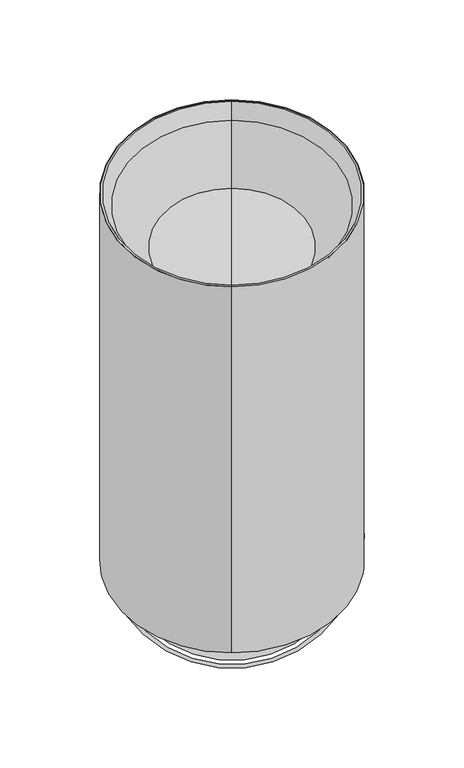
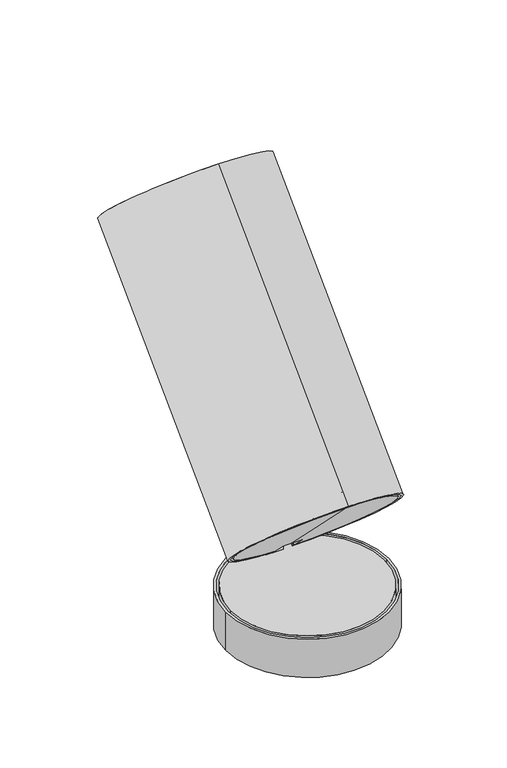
"""IFC4 building model written with IfcOpenShell, lengths in millimetres: light fixture geometry, PIPES C L : 2800 29W-830 62°."""

import ifcopenshell
import ifcopenshell.guid

model = None  # the IFC model being written
_history = None  # IfcOwnerHistory: only IFC2X3 demands one
_inside = {}  # id of a spatial element -> (the spatial element, [elements in it])
_under = {}  # id of a project, library or spatial element -> (it, [spatial elements below it])
_declared = {}  # id of a project -> (the project, [libraries it declares])
_typed = {}  # id of a type object -> (the type object, [elements of that type])
_made_of = {}  # id of a material, layer set ... -> (it, [elements and type objects made of it])


def new_model(schema):
    """Start an empty IFC model of exactly this schema.

    Asked for "IFC4X3", IfcOpenShell would pick the latest addendum, in which some entities
    have other attributes; the version numbers below select the first issue.
    IFC2X3 requires an IfcOwnerHistory on every rooted entity: one is made here for all.
    """
    global model, _history
    if schema == "IFC4X3":
        model = ifcopenshell.file(schema_version=(4, 3, 0, 0))
    else:
        model = ifcopenshell.file(schema=schema)
    _inside.clear()
    _under.clear()
    _declared.clear()
    _typed.clear()
    _made_of.clear()
    _history = None
    if model.schema == "IFC2X3":
        org = make("IfcOrganization", Name="unknown")
        user = make(
            "IfcPersonAndOrganization",
            ThePerson=make("IfcPerson", FamilyName="unknown"),
            TheOrganization=org,
        )
        app = make(
            "IfcApplication",
            ApplicationDeveloper=org,
            Version="unknown",
            ApplicationFullName="unknown",
            ApplicationIdentifier="unknown",
        )
        _history = make(
            "IfcOwnerHistory",
            OwningUser=user,
            OwningApplication=app,
            ChangeAction="ADDED",
            CreationDate=0,
        )
    return model


def make(cls, **values):
    """One entity of the class cls with the attributes given. An attribute that is None is left unset."""
    return model.create_entity(
        cls, **{name: value for name, value in values.items() if value is not None}
    )


def rooted(cls, **values):
    """An entity with a GlobalId (a new one), such as an element, a storey or a relation."""
    return make(cls, GlobalId=ifcopenshell.guid.new(), OwnerHistory=_history, **values)


def si_unit(unit_type, name, prefix=None):
    """IfcSIUnit, for example si_unit("LENGTHUNIT", "METRE", prefix="MILLI")."""
    return make("IfcSIUnit", UnitType=unit_type, Prefix=prefix, Name=name)


def assignment(units):
    """IfcUnitAssignment: the units of a project."""
    return None if units is None else make("IfcUnitAssignment", Units=units)


def point(xyz):
    """IfcCartesianPoint."""
    return None if xyz is None else make("IfcCartesianPoint", Coordinates=xyz)


def direction(xyz):
    """IfcDirection."""
    return None if xyz is None else make("IfcDirection", DirectionRatios=xyz)


def frame(location, z_axis=None, x_axis=None):
    """IfcAxis2Placement3D, a coordinate frame: its origin and axes. An axis left out is left unset."""
    return make(
        "IfcAxis2Placement3D",
        Location=point(location),
        Axis=direction(z_axis),
        RefDirection=direction(x_axis),
    )


def frame_2d(location, x_axis=None):
    """IfcAxis2Placement2D, a coordinate frame in the plane: its origin and x axis."""
    return make(
        "IfcAxis2Placement2D", Location=point(location), RefDirection=direction(x_axis)
    )


def origin():
    """The frame at (0, 0, 0) with its axes left unset."""
    return frame((0.0, 0.0, 0.0))


def origin_with_axes():
    """The frame at (0, 0, 0) with the z axis (0, 0, 1) and the x axis (1, 0, 0) written out."""
    return frame((0.0, 0.0, 0.0), z_axis=(0.0, 0.0, 1.0), x_axis=(1.0, 0.0, 0.0))


def origin_2d():
    """The frame at (0, 0) in the plane with its x axis left unset."""
    return frame_2d((0.0, 0.0))


def place(relative_to, where):
    """IfcLocalPlacement: puts the frame where relative to a parent placement (None: the world)."""
    return make(
        "IfcLocalPlacement", PlacementRelTo=relative_to, RelativePlacement=where
    )


def context(
    kind, dimensions, precision=None, world=None, true_north=None, identifier=None
):
    """IfcGeometricRepresentationContext, for example the 3D "Model" context."""
    return make(
        "IfcGeometricRepresentationContext",
        ContextIdentifier=identifier,
        ContextType=kind,
        CoordinateSpaceDimension=dimensions,
        Precision=precision,
        WorldCoordinateSystem=world,
        TrueNorth=true_north,
    )


def project(units=None, contexts=None):
    """IfcProject with its units and contexts."""
    return rooted(
        "IfcProject",
        Name="project",
        RepresentationContexts=contexts,
        UnitsInContext=assignment(units),
    )


def spatial(cls, under=None, at=None, **own):
    """A site, building, storey or space (cls), placed at a placement, below another one or the project."""
    s = rooted(cls, ObjectPlacement=at, **own)
    if under is not None:
        _under.setdefault(under.id(), (under, []))[1].append(s)
    return s


def polyline(points):
    """IfcPolyline through the points."""
    return make("IfcPolyline", Points=[point(p) for p in points])


def circle_curve(where, radius):
    """IfcCircle in the frame where."""
    return make("IfcCircle", Position=where, Radius=radius)


def trimmed(basis, trim1, trim2, sense, master):
    """IfcTrimmedCurve: the piece of a basis curve between two trims."""
    return make(
        "IfcTrimmedCurve",
        BasisCurve=basis,
        Trim1=trim1,
        Trim2=trim2,
        SenseAgreement=sense,
        MasterRepresentation=master,
    )


def segment(curve, same_sense, transition):
    """IfcCompositeCurveSegment."""
    return make(
        "IfcCompositeCurveSegment",
        Transition=transition,
        SameSense=same_sense,
        ParentCurve=curve,
    )


def composite_curve(segments, self_intersect=None):
    """IfcCompositeCurve: segments joined end to end."""
    return make("IfcCompositeCurve", Segments=segments, SelfIntersect=self_intersect)


def outline(outer, holes=None, kind="AREA"):
    """IfcArbitraryClosedProfileDef: a profile drawn as a closed curve; with holes, ...WithVoids."""
    if holes is None:
        return make("IfcArbitraryClosedProfileDef", ProfileType=kind, OuterCurve=outer)
    return make(
        "IfcArbitraryProfileDefWithVoids",
        ProfileType=kind,
        OuterCurve=outer,
        InnerCurves=holes,
    )


def extrude(swept, where, along, depth):
    """IfcExtrudedAreaSolid: the profile swept, set in the frame where, extruded along a direction by depth."""
    return make(
        "IfcExtrudedAreaSolid",
        SweptArea=swept,
        Position=where,
        ExtrudedDirection=direction(along),
        Depth=depth,
    )


def shape(context_of_items, identifier, shape_type, items):
    """IfcShapeRepresentation: the items that make up one representation, for example the "Body"."""
    return make(
        "IfcShapeRepresentation",
        ContextOfItems=context_of_items,
        RepresentationIdentifier=identifier,
        RepresentationType=shape_type,
        Items=items,
    )


def source(mapping_origin, context_of_items, identifier, shape_type, items):
    """IfcRepresentationMap: a shape defined once, which mapped items show again and again."""
    return make(
        "IfcRepresentationMap",
        MappingOrigin=mapping_origin,
        MappedRepresentation=shape(context_of_items, identifier, shape_type, items),
    )


def transform(
    local_origin,
    x_axis=None,
    y_axis=None,
    z_axis=None,
    scale=None,
    scale2=None,
    scale3=None,
    uniform=True,
):
    """IfcCartesianTransformationOperator3D, or its non-uniform kind. x_axis, y_axis, z_axis: its Axis1, 2, 3."""
    if uniform:
        return make(
            "IfcCartesianTransformationOperator3D",
            Axis1=direction(x_axis),
            Axis2=direction(y_axis),
            LocalOrigin=point(local_origin),
            Scale=scale,
            Axis3=direction(z_axis),
        )
    return make(
        "IfcCartesianTransformationOperator3DnonUniform",
        Axis1=direction(x_axis),
        Axis2=direction(y_axis),
        LocalOrigin=point(local_origin),
        Scale=scale,
        Axis3=direction(z_axis),
        Scale2=scale2,
        Scale3=scale3,
    )


def mapped(mapping_source, mapping_target):
    """IfcMappedItem: shows the shape of a source again, moved by a transform."""
    return make(
        "IfcMappedItem", MappingSource=mapping_source, MappingTarget=mapping_target
    )


def made_of(thing, what):
    """Note that an element or type object is made of a material, layer set ...; save() writes the relation."""
    if what is not None:
        _made_of.setdefault(what.id(), (what, []))[1].append(thing)
    return thing


def element(
    cls,
    number,
    at=None,
    inside=None,
    cuts=None,
    type_object=None,
    material=None,
    context=None,
    identifier="Body",
    shape_type=None,
    held_by="IfcProductDefinitionShape",
    body=None,
    shapes=None,
    **own,
):
    """One element of the class cls, such as IfcWall. Its Tag is "e" and its number.

    at: its placement. inside: the storey or other place that contains it. cuts: it is an
    opening in that element (IfcRelVoidsElement). A single representation is given by context,
    identifier, shape_type and body (its items); several are given by shapes. held_by: the class
    of the entity that holds the representations. save() writes the other relations.
    """
    e = rooted(cls, Tag="e%d" % number, ObjectPlacement=at, **own)
    if body is not None:
        shapes = [shape(context, identifier, shape_type, body)]
    if shapes is not None:
        e.Representation = make(held_by, Representations=shapes)
    if inside is not None:
        _inside.setdefault(inside.id(), (inside, []))[1].append(e)
    if cuts is not None:
        rooted(
            "IfcRelVoidsElement", RelatingBuildingElement=cuts, RelatedOpeningElement=e
        )
    if type_object is not None:
        _typed.setdefault(type_object.id(), (type_object, []))[1].append(e)
    return made_of(e, material)


def aggregate(whole, parts):
    """IfcRelAggregates: a whole, such as a stair, and the parts it consists of."""
    return rooted("IfcRelAggregates", RelatingObject=whole, RelatedObjects=parts)


def save(model, path):
    """Write the relations noted so far, then the file.

    IfcRelAggregates (storeys below a building ...), IfcRelContainedInSpatialStructure (elements
    in a storey), IfcRelDefinesByType, IfcRelAssociatesMaterial and IfcRelDeclares: one each for
    every whole, place, type object, material and project.
    """
    for whole, parts in _under.values():
        aggregate(whole, parts)
    for where, things in _inside.values():
        rooted(
            "IfcRelContainedInSpatialStructure",
            RelatedElements=things,
            RelatingStructure=where,
        )
    for kind, things in _typed.values():
        rooted("IfcRelDefinesByType", RelatedObjects=things, RelatingType=kind)
    for what, things in _made_of.values():
        rooted("IfcRelAssociatesMaterial", RelatedObjects=things, RelatingMaterial=what)
    for by, libraries in _declared.values():
        rooted("IfcRelDeclares", RelatingContext=by, RelatedDefinitions=libraries)
    model.write(path)


def plane_surface(at):
    """IfcPlane: the flat surface through the origin of the frame at, square to its z axis."""
    return make("IfcPlane", Position=at)


def cylinder_surface(at, radius):
    """IfcCylindricalSurface: all points at the distance radius from the z axis of the frame at."""
    return make("IfcCylindricalSurface", Position=at, Radius=radius)


def revolved_surface(curve, axis_point, axis_direction):
    """IfcSurfaceOfRevolution: the curve turned about the line through axis_point along axis_direction."""
    return make(
        "IfcSurfaceOfRevolution",
        SweptCurve=make("IfcArbitraryOpenProfileDef", ProfileType="CURVE", Curve=curve),
        AxisPosition=make("IfcAxis1Placement", Location=point(axis_point), Axis=direction(axis_direction)),
    )


def advanced_brep(points, edges, surfaces, faces):
    """IfcAdvancedBrep: a solid bounded by faces that lie on surfaces and meet in shared edges.

    An edge is (start, end): straight between two places in points (the first is 0);
    or (start, end, curve); or (start, end, curve, False) where it runs against its curve.
    A face is (place in surfaces, loops), or (place, loops, False) where it looks against
    its surface's normal. A loop lists edges by number (the first is 1), with a minus sign
    where the edge is run from its end to its start. The first loop is the outer one.
    """
    corners = [point(p) for p in points]
    vertices = [make("IfcVertexPoint", VertexGeometry=c) for c in corners]
    made = []
    for start, end, *more in edges:
        made.append(
            make(
                "IfcEdgeCurve",
                EdgeStart=vertices[start],
                EdgeEnd=vertices[end],
                EdgeGeometry=more[0] if more else make("IfcPolyline", Points=[corners[start], corners[end]]),
                SameSense=more[1] if len(more) > 1 else True,
            )
        )
    hull = []
    for where, loops, *sense in faces:
        bounds = []
        for j, loop in enumerate(loops):
            ring = [make("IfcOrientedEdge", EdgeElement=made[abs(k) - 1], Orientation=k > 0) for k in loop]
            bounds.append(
                make(
                    "IfcFaceOuterBound" if j == 0 else "IfcFaceBound",
                    Bound=make("IfcEdgeLoop", EdgeList=ring),
                    Orientation=True,
                )
            )
        hull.append(make("IfcAdvancedFace", Bounds=bounds, FaceSurface=surfaces[where], SameSense=sense[0] if sense else True))
    return make("IfcAdvancedBrep", Outer=make("IfcClosedShell", CfsFaces=hull))


def light_fixture_090edace(model_context):
    return source(origin(), model_context, "Body", "SolidModel", [
        advanced_brep(
        [(-8.0, 57.2071068, 92.8492424), (-8.0, 28.9228355, 64.5649712), (-8.0, 41.2985853, 52.1892214), (-8.0, 33.5204107, 44.4110468), (-8.0, 34.9452946, 42.9861629), (-8.0, 71.0077404, 79.0486088), (8.0, 57.2071068, 92.8492424), (8.0, 71.0077404, 79.0486088), (8.0, 34.9452946, 42.9861629), (8.0, 33.5204107, 44.4110468), (8.0, 41.2985853, 52.1892214), (8.0, 28.9228355, 64.5649712), (0.0, 28.9228355, 64.5649712), (0.0, 71.3492424, 78.7071068), (0.0, 125.0893578, 320.5376259), (0.0, 219.1345597, 226.492424), (0.0, 208.9399527, 223.5599433), (0.0, 122.156877, 310.343019), (0.0, -58.7584053, 136.6898628), (0.0, -57.3441918, 135.2756493), (0.0, -49.5660172, 143.0538239), (0.0, -3.9576298, 97.4454365), (0.0, 114.3056476, 275.7154061), (0.0, 174.3123398, 215.7087138), (0.0, 144.3089937, 245.71206)],
        [
            (0, 1),
            (1, 2),
            (2, 3),
            (3, 4),
            (4, 5),
            (5, 0),
            (6, 7),
            (7, 8),
            (8, 9),
            (9, 10),
            (10, 11),
            (11, 6),
            (0, 6),
            (11, 12),
            (12, 1),
            (5, 13, circle_curve(frame((0.0, 24.3266415, 125.7297077), z_axis=(0.0, -0.7071067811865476, -0.7071067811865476), x_axis=(0.0, 0.7071067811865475, -0.7071067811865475)), 66.5)),
            (13, 7, circle_curve(frame((0.0, 24.3266415, 125.7297077), z_axis=(0.0, -0.7071067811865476, -0.7071067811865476), x_axis=(0.0, 0.7071067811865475, -0.7071067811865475)), 66.5)),
            (14, 15, circle_curve(frame((0.0, 172.1119587, 273.515025), z_axis=(0.0, 0.7071067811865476, 0.7071067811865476), x_axis=(0.0, 0.7071067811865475, -0.7071067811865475)), 66.5)),
            (15, 16),
            (16, 17, circle_curve(frame((0.0, 165.5484149, 266.9514811), z_axis=(0.0, -0.7071067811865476, -0.7071067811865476), x_axis=(0.0, 0.7071067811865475, -0.7071067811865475)), 61.3649013)),
            (17, 14),
            (15, 14, circle_curve(frame((0.0, 172.1119587, 273.515025), z_axis=(0.0, 0.7071067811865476, 0.7071067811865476), x_axis=(0.0, 0.7071067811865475, -0.7071067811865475)), 66.5)),
            (17, 16, circle_curve(frame((0.0, 165.5484149, 266.9514811), z_axis=(0.0, -0.7071067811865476, -0.7071067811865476), x_axis=(0.0, 0.7071067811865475, -0.7071067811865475)), 61.3649013)),
            (14, 18),
            (18, 8, circle_curve(frame((0.0, -11.7358044, 89.6672619), z_axis=(0.0, 0.7071067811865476, 0.7071067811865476), x_axis=(0.0, 0.7071067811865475, -0.7071067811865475)), 66.5)),
            (13, 15),
            (4, 18, circle_curve(frame((0.0, -11.7358044, 89.6672619), z_axis=(0.0, 0.7071067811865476, 0.7071067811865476), x_axis=(0.0, 0.7071067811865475, -0.7071067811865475)), 66.5)),
            (18, 19),
            (19, 9, circle_curve(frame((0.0, -11.7358044, 89.6672619), z_axis=(0.0, 0.7071067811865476, 0.7071067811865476), x_axis=(0.0, 0.7071067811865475, -0.7071067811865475)), 64.5)),
            (3, 19, circle_curve(frame((0.0, -11.7358044, 89.6672619), z_axis=(0.0, 0.7071067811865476, 0.7071067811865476), x_axis=(0.0, 0.7071067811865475, -0.7071067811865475)), 64.5)),
            (19, 20),
            (20, 10, circle_curve(frame((0.0, -3.9576298, 97.4454365), z_axis=(0.0, 0.7071067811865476, 0.7071067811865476), x_axis=(0.0, 0.7071067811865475, -0.7071067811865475)), 64.5)),
            (2, 20, circle_curve(frame((0.0, -3.9576298, 97.4454365), z_axis=(0.0, 0.7071067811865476, 0.7071067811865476), x_axis=(0.0, 0.7071067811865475, -0.7071067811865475)), 64.5)),
            (20, 21),
            (21, 12),
            (22, 23, circle_curve(frame((0.0, 144.3089937, 245.71206), z_axis=(0.0, 0.7071067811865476, 0.7071067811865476), x_axis=(0.0, 0.7071067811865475, -0.7071067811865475)), 42.431139)),
            (23, 24),
            (24, 22),
            (23, 22, circle_curve(frame((0.0, 144.3089937, 245.71206), z_axis=(0.0, 0.7071067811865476, 0.7071067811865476), x_axis=(0.0, 0.7071067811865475, -0.7071067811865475)), 42.431139)),
            (16, 23),
            (22, 17),
        ],
        [
            plane_surface(frame((-8.0, 57.2071068, 92.8492424), z_axis=(1.0000000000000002, 0.0, 0.0), x_axis=(0.0, 0.707106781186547, 0.7071067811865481))),
            plane_surface(frame((8.0, 57.2071068, 92.8492424), z_axis=(-1.0000000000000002, 0.0, 0.0), x_axis=(0.0, -0.707106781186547, -0.7071067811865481))),
            plane_surface(frame((8.0, 57.2071068, 92.8492424), z_axis=(0.0, 0.7071067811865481, -0.707106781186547), x_axis=(-1.0, 0.0, 0.0))),
            plane_surface(frame((8.0, 74.8847763, 75.1715729), z_axis=(0.0, -0.7071067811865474, -0.7071067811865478), x_axis=(-1.0, 0.0, 0.0))),
            revolved_surface(polyline([(0.0, 208.9399527, 223.5599433), (0.0, 219.1345597, 226.492424)]), (0.0, -15.5912199, 85.8118463), (0.0, -0.7071067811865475, -0.7071067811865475)),
            cylinder_surface(frame((0.0, -15.5912199, 85.8118463), z_axis=(0.0, -0.7071067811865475, -0.7071067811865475), x_axis=(0.0, 0.7071067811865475, -0.7071067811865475)), 66.5),
            plane_surface(frame((0.0, -11.7358044, 89.6672619), z_axis=(0.0, -0.7071067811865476, -0.7071067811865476), x_axis=(0.0, 0.7071067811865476, -0.7071067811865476))),
            revolved_surface(polyline([(0.0, 33.87258303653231, 44.05887446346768), (0.0, 41.65075763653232, 51.83704906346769)]), (0.0, -15.5912199, 85.8118463), (0.0, -0.7071067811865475, -0.7071067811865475)),
            plane_surface(frame((0.0, -3.9576298, 97.4454365), z_axis=(0.0, -0.7071067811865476, -0.7071067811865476), x_axis=(0.0, 0.7071067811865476, -0.7071067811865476))),
            plane_surface(frame((0.0, 144.3089937, 245.71206), z_axis=(0.0, 0.7071067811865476, 0.7071067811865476), x_axis=(0.0, 0.7071067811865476, -0.7071067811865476))),
            revolved_surface(polyline([(0.0, 174.3123398, 215.7087138), (0.0, 208.9399527, 223.5599433)]), (0.0, -15.5912199, 85.8118463), (0.0, -0.7071067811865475, -0.7071067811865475)),
        ],
        [
            (0, [[1, 2, 3, 4, 5, 6]]),
            (1, [[7, 8, 9, 10, 11, 12]]),
            (2, [[13, -12, 14, 15, -1]]),
            (3, [[-13, -6, 16, 17, -7]]),
            (4, [[18, 19, 20, 21]]),
            (4, [[-19, 22, -21, 23]]),
            (5, [[-18, 24, 25, -8, -17, 26]]),
            (5, [[-22, -26, -16, -5, 27, -24]]),
            (6, [[28, 29, -9, -25]]),
            (6, [[-28, -27, -4, 30]]),
            (7, [[31, 32, -10, -29]]),
            (7, [[-31, -30, -3, 33]]),
            (8, [[34, 35, -14, -11, -32]]),
            (8, [[-34, -33, -2, -15, -35]]),
            (9, [[36, 37, 38]]),
            (9, [[-37, 39, -38]]),
            (10, [[-20, 40, -36, 41]]),
            (10, [[-23, -41, -39, -40]]),
        ],
    ),
        advanced_brep(
        [(-8.0, 22.5588745, 58.2010101), (-8.0, 21.1446609, 56.7867966), (-8.0, 32.0903035, 45.841154), (-8.0, 33.5045171, 47.2553676), (8.0, 21.1446609, 56.7867966), (8.0, 22.5588745, 58.2010101), (8.0, 33.5045171, 47.2553676), (8.0, 32.0903035, 45.841154), (0.0, 22.5588745, 58.2010101), (0.0, 21.1446609, 56.7867966), (0.0, -10.3215908, 91.0814755), (0.0, -54.5112698, 135.2711545), (0.0, -55.9254834, 133.8569409), (0.0, -11.7358044, 89.6672619)],
        [
            (0, 1),
            (1, 2),
            (2, 3),
            (3, 0),
            (4, 5),
            (5, 6),
            (6, 7),
            (7, 4),
            (0, 8),
            (8, 5),
            (4, 9),
            (9, 1),
            (10, 11),
            (11, 6, circle_curve(frame((0.0, -10.3215908, 91.0814755), z_axis=(0.0, 0.7071067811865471, 0.7071067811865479), x_axis=(0.0, 0.7071067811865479, -0.7071067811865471)), 62.4936434)),
            (8, 10),
            (3, 11, circle_curve(frame((0.0, -10.3215908, 91.0814755), z_axis=(0.0, 0.7071067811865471, 0.7071067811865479), x_axis=(0.0, 0.7071067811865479, -0.7071067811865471)), 62.4936434)),
            (11, 12),
            (12, 7, circle_curve(frame((0.0, -11.7358044, 89.6672619), z_axis=(0.0, 0.7071067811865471, 0.7071067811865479), x_axis=(0.0, 0.7071067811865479, -0.7071067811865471)), 62.4936434)),
            (2, 12, circle_curve(frame((0.0, -11.7358044, 89.6672619), z_axis=(0.0, 0.7071067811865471, 0.7071067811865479), x_axis=(0.0, 0.7071067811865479, -0.7071067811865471)), 62.4936434)),
            (12, 13),
            (13, 9),
        ],
        [
            plane_surface(frame((-8.0, 57.2071068, 92.8492424), z_axis=(1.0000000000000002, 0.0, 0.0), x_axis=(0.0, 0.707106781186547, 0.7071067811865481))),
            plane_surface(frame((8.0, 57.2071068, 92.8492424), z_axis=(-1.0000000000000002, 0.0, 0.0), x_axis=(0.0, -0.707106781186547, -0.7071067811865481))),
            plane_surface(frame((8.0, 57.2071068, 92.8492424), z_axis=(0.0, 0.7071067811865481, -0.707106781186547), x_axis=(-1.0, 0.0, 0.0))),
            plane_surface(frame((0.0, -10.3215908, 91.0814755), z_axis=(0.0, 0.7071067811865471, 0.7071067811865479), x_axis=(0.0, 0.7071067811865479, -0.7071067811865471))),
            cylinder_surface(frame((0.0, -15.5912199, 85.8118463), z_axis=(0.0, -0.7071067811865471, -0.7071067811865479), x_axis=(0.0, 0.7071067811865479, -0.7071067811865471)), 62.4936434),
            plane_surface(frame((0.0, -11.7358044, 89.6672619), z_axis=(0.0, -0.7071067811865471, -0.7071067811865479), x_axis=(0.0, 0.7071067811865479, -0.7071067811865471))),
        ],
        [
            (0, [[1, 2, 3, 4]]),
            (1, [[5, 6, 7, 8]]),
            (2, [[-1, 9, 10, -5, 11, 12]]),
            (3, [[13, 14, -6, -10, 15]]),
            (3, [[-13, -15, -9, -4, 16]]),
            (4, [[17, 18, -7, -14]]),
            (4, [[-17, -16, -3, 19]]),
            (5, [[20, 21, -11, -8, -18]]),
            (5, [[-20, -19, -2, -12, -21]]),
        ],
    ),
        advanced_brep(
        [(0.0, 125.0893578, 320.5376259), (0.0, 219.1345597, 226.492424), (0.0, 218.3264604, 227.3005233), (0.0, 125.8974571, 319.7295267), (0.0, 115.4028959, 276.0323713), (0.0, 174.629305, 216.8059622), (0.0, 145.0161005, 246.4191668), (0.0, 123.125806, 310.0940352), (0.0, 208.6909689, 224.5288722), (0.0, 122.156877, 310.343019), (0.0, 208.9399527, 223.5599433), (0.0, 114.3056476, 275.7154061), (0.0, 174.3123398, 215.7087138), (0.0, 144.3089937, 245.71206)],
        [
            (0, 1, circle_curve(frame((0.0, 172.1119587, 273.515025), z_axis=(0.0, 0.7071067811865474, 0.7071067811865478), x_axis=(0.0, 0.7071067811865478, -0.7071067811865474)), 66.5)),
            (1, 2),
            (2, 3, circle_curve(frame((0.0, 172.1119587, 273.515025), z_axis=(0.0, -0.7071067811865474, -0.7071067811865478), x_axis=(0.0, 0.7071067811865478, -0.7071067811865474)), 65.357175)),
            (3, 0),
            (1, 0, circle_curve(frame((0.0, 172.1119587, 273.515025), z_axis=(0.0, 0.7071067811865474, 0.7071067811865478), x_axis=(0.0, 0.7071067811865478, -0.7071067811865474)), 66.5)),
            (3, 2, circle_curve(frame((0.0, 172.1119587, 273.515025), z_axis=(0.0, -0.7071067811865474, -0.7071067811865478), x_axis=(0.0, 0.7071067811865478, -0.7071067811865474)), 65.357175)),
            (4, 5, circle_curve(frame((0.0, 145.0161005, 246.4191668), z_axis=(0.0, 0.7071067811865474, 0.7071067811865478), x_axis=(0.0, 0.7071067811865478, -0.7071067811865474)), 41.8793955)),
            (5, 6),
            (6, 4),
            (5, 4, circle_curve(frame((0.0, 145.0161005, 246.4191668), z_axis=(0.0, 0.7071067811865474, 0.7071067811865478), x_axis=(0.0, 0.7071067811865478, -0.7071067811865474)), 41.8793955)),
            (7, 8, circle_curve(frame((0.0, 165.9083874, 267.3114537), z_axis=(0.0, 0.7071067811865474, 0.7071067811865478), x_axis=(0.0, 0.7071067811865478, -0.7071067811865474)), 60.5037069)),
            (8, 5),
            (4, 7),
            (8, 7, circle_curve(frame((0.0, 165.9083874, 267.3114537), z_axis=(0.0, 0.7071067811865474, 0.7071067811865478), x_axis=(0.0, 0.7071067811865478, -0.7071067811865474)), 60.5037069)),
            (9, 10, circle_curve(frame((0.0, 165.5484149, 266.9514811), z_axis=(0.0, 0.7071067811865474, 0.7071067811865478), x_axis=(0.0, 0.7071067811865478, -0.7071067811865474)), 61.3649013)),
            (10, 1),
            (0, 9),
            (10, 9, circle_curve(frame((0.0, 165.5484149, 266.9514811), z_axis=(0.0, 0.7071067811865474, 0.7071067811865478), x_axis=(0.0, 0.7071067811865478, -0.7071067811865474)), 61.3649013)),
            (11, 12, circle_curve(frame((0.0, 144.3089937, 245.71206), z_axis=(0.0, 0.7071067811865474, 0.7071067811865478), x_axis=(0.0, 0.7071067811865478, -0.7071067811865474)), 42.431139)),
            (12, 10),
            (9, 11),
            (12, 11, circle_curve(frame((0.0, 144.3089937, 245.71206), z_axis=(0.0, 0.7071067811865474, 0.7071067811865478), x_axis=(0.0, 0.7071067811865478, -0.7071067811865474)), 42.431139)),
            (13, 12),
            (11, 13),
            (2, 8),
            (7, 3),
        ],
        [
            plane_surface(frame((0.0, 172.1119587, 273.515025), z_axis=(0.0, 0.7071067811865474, 0.7071067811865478), x_axis=(0.0, 0.7071067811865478, -0.7071067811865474))),
            plane_surface(frame((0.0, 145.0161005, 246.4191668), z_axis=(0.0, 0.7071067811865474, 0.7071067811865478), x_axis=(0.0, 0.7071067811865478, -0.7071067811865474))),
            revolved_surface(polyline([(0.0, 174.629305, 216.8059622), (0.0, 208.6909689, 224.5288722)]), (0.0, -15.5912199, 85.8118463), (0.0, -0.7071067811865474, -0.7071067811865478)),
            revolved_surface(polyline([(0.0, 219.1345597, 226.492424), (0.0, 208.9399527, 223.5599433)]), (0.0, -15.5912199, 85.8118463), (0.0, -0.7071067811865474, -0.7071067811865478)),
            revolved_surface(polyline([(0.0, 208.9399527, 223.5599433), (0.0, 174.3123398, 215.7087138)]), (0.0, -15.5912199, 85.8118463), (0.0, -0.7071067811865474, -0.7071067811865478)),
            plane_surface(frame((0.0, 144.3089937, 245.71206), z_axis=(0.0, -0.7071067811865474, -0.7071067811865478), x_axis=(0.0, 0.7071067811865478, -0.7071067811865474))),
            revolved_surface(polyline([(0.0, 208.6909689, 224.5288722), (0.0, 218.3264604, 227.3005233)]), (0.0, -15.5912199, 85.8118463), (0.0, -0.7071067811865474, -0.7071067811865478)),
        ],
        [
            (0, [[1, 2, 3, 4]]),
            (0, [[5, -4, 6, -2]]),
            (1, [[7, 8, 9]]),
            (1, [[10, -9, -8]]),
            (2, [[11, 12, -7, 13]]),
            (2, [[14, -13, -10, -12]]),
            (3, [[15, 16, -1, 17]]),
            (3, [[18, -17, -5, -16]]),
            (4, [[19, 20, -15, 21]]),
            (4, [[22, -21, -18, -20]]),
            (5, [[23, -19, 24]]),
            (5, [[-24, -22, -23]]),
            (6, [[-3, 25, -11, 26]]),
            (6, [[-6, -26, -14, -25]]),
        ],
    ),
        extrude(outline(composite_curve([segment(trimmed(circle_curve(origin_2d(), 62.5), [point((62.5, 0.0))], [point((-62.5, 0.0))], False, "CARTESIAN"), True, "CONTINUOUS"), segment(trimmed(circle_curve(origin_2d(), 62.5), [point((-62.5, 0.0))], [point((62.5, 0.0))], False, "CARTESIAN"), True, "CONTINUOUS")], self_intersect=False)), origin_with_axes(), (0.0, 0.0, 1.0), 33.0),
        extrude(outline(composite_curve([segment(trimmed(circle_curve(frame_2d((55.0522063, 79.2490169)), 8.5499681), [point((46.5074467, 79.5474065))], [point((53.8622808, 87.7157773))], False, "CARTESIAN"), True, "CONTINUOUS"), segment(polyline([(53.8622808, 87.7157773), (63.0, 89.0), (63.0, 86.7928568), (65.5, 86.7928568), (65.5, 33.0), (46.5074467, 33.0), (46.5074467, 79.5474065)]), True, "CONTINUOUS")], self_intersect=False)), frame((-7.0, 0.0, 0.0), z_axis=(1.0, 0.0, 0.0), x_axis=(0.0, 1.0, 0.0)), (0.0, 0.0, 1.0), 14.0),
        extrude(outline(composite_curve([segment(trimmed(circle_curve(origin_2d(), 66.5), [point((-66.5, 0.0))], [point((66.5, 0.0))], False, "CARTESIAN"), True, "CONTINUOUS"), segment(trimmed(circle_curve(origin_2d(), 66.5), [point((66.5, 0.0))], [point((-66.5, 0.0))], False, "CARTESIAN"), True, "CONTINUOUS")], self_intersect=False), holes=[composite_curve([segment(trimmed(circle_curve(origin_2d(), 64.5), [point((-64.5, 0.0))], [point((64.5, 0.0))], True, "CARTESIAN"), True, "CONTINUOUS"), segment(trimmed(circle_curve(origin_2d(), 64.5), [point((64.5, 0.0))], [point((-64.5, 0.0))], True, "CARTESIAN"), True, "CONTINUOUS")], self_intersect=False)]), origin_with_axes(), (0.0, 0.0, 1.0), 33.0),
    ])


if __name__ == "__main__":
    model = new_model("IFC4")
    model_context = context("Model", 3, world=origin())
    ifc_project = project(units=[si_unit("LENGTHUNIT", "METRE", prefix="MILLI")], contexts=[model_context])
    site = spatial("IfcSite", under=ifc_project)
    building = spatial("IfcBuilding", under=site)
    placement = place(None, origin())
    light_fixture_shape = light_fixture_090edace(model_context)
    element("IfcLightFixture", 1, ObjectType="PIPES C L : 2800 29W-830 62°", at=placement, inside=building, context=model_context, shape_type="MappedRepresentation", body=[
        mapped(light_fixture_shape, transform((0.0, 0.0, 0.0), x_axis=(1.0, 0.0, 0.0), y_axis=(0.0, 1.0, 0.0), z_axis=(0.0, 0.0, 1.0))),
    ])
    save(model, "model.ifc")
